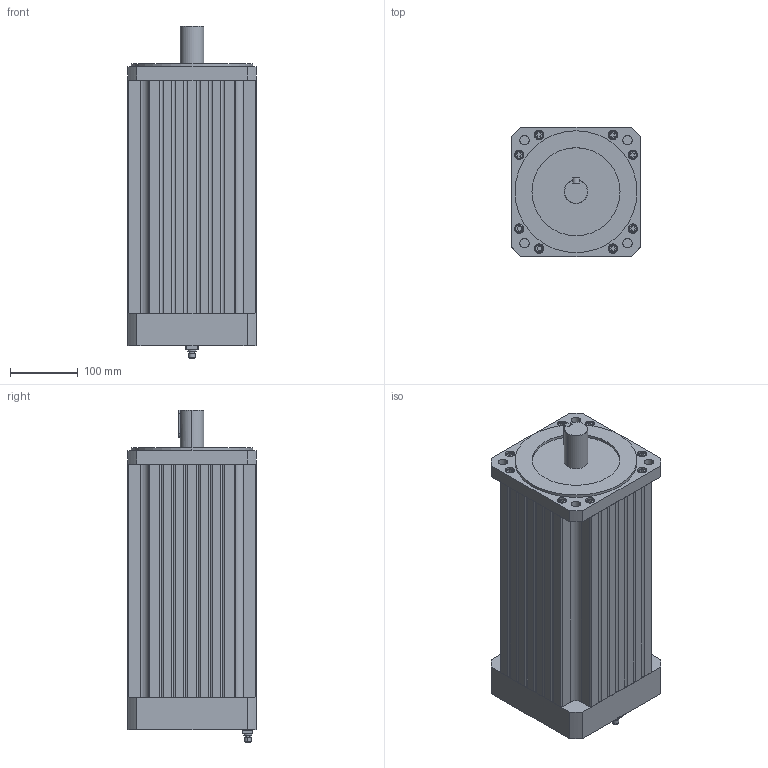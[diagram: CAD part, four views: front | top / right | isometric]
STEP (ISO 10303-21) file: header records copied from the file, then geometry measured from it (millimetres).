
FILE_DESCRIPTION (( 'STEP AP203' ), '1' );
FILE_NAME ('BTS190-45D3A2-EXD.STEP', '2023-03-06T06:48:10', ( 'Admin' ), ( '' ), 'SwSTEP 2.0', 'SolidWorks 2021', '' );
FILE_SCHEMA (( 'CONFIG_CONTROL_DESIGN' ));
Length unit declared in the file: millimetre
Products named in the file (1): BTS190-45D3A2-EXD
Bounding box: 190 x 190 x 490 mm (x, y, z)
Volume: 13555579.4 mm3; surface area: 564499.8 mm2
Topology: 15 solids, 16 shells, 516 faces, 1248 edges, 804 vertices
Faces by surface type: plane 287, cylinder 174, torus 34, cone 21
Entity records: 15048 total; most frequent: DIRECTION 2679, CARTESIAN_POINT 2595, ORIENTED_EDGE 2460, EDGE_CURVE 1230, AXIS2_PLACEMENT_3D 936, VECTOR 807, LINE 807, VERTEX_POINT 804
